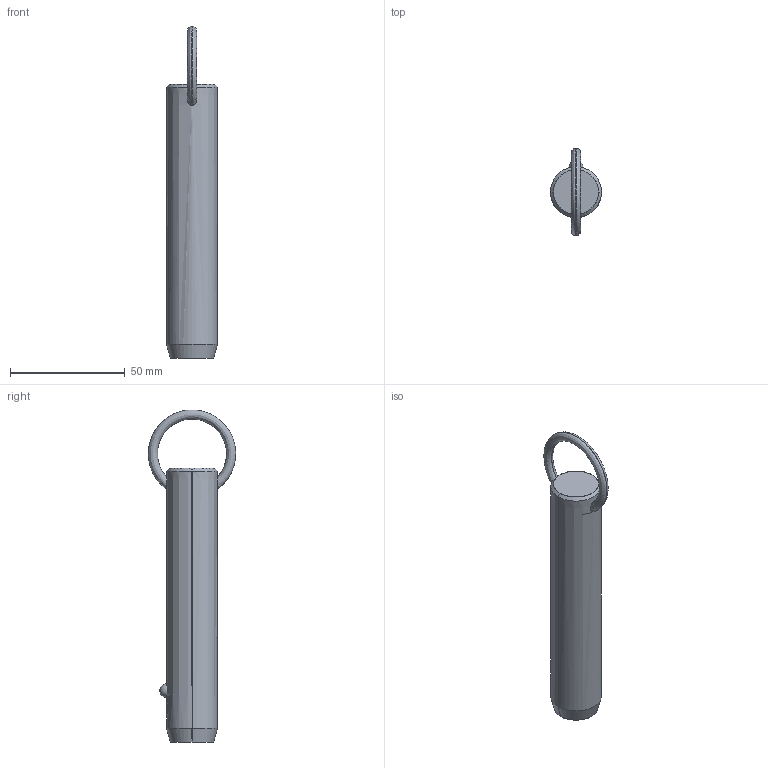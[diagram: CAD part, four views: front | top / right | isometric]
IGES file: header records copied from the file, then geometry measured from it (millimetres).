
Start section: SolidWorks IGES file using analytic representation for surfaces
Global section: file name: C:\Users\liam_\OneDrive\Documents\WORK\Work for WixRoyd\Job Files\J-00019 - Matt Davis CAD Checking\04. CAD Drawings\automotion20190605\P1250.2_v2\P1250.2_v2_20190729_IGES\P1250.087-320.igs; native system: SolidWorks 2017; preprocessor: SolidWorks 2017; author: liam_; date: 190730.000917; units: millimetre
Bounding box: 22.2 x 38.06 x 144.79 mm (x, y, z)
Surface area: 9971.1 mm2 (no closed solid volume)
Topology: 0 solids, 0 shells, 12 faces, 302 edges, 300 vertices
Faces by surface type: revolution 8, bspline 4
